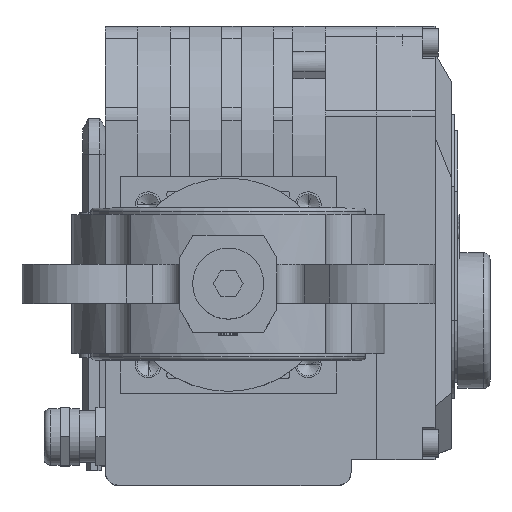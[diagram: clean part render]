
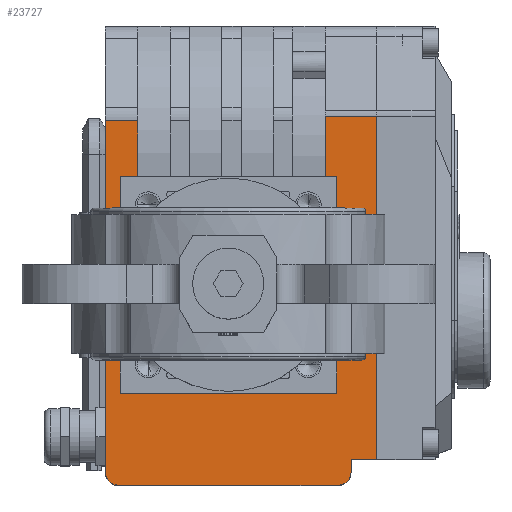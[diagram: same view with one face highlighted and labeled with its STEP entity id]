
A CAD part, top view. The second image highlights one B-rep face of the part: STEP entity #23727.
In plain terms, the highlighted planar face has unit normal (0, 0, 1) as drawn and (0, -1, 0) by its records, which use the part's own axes.
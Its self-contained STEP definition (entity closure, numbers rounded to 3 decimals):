
#18700=DIRECTION('',(1.,0.,0.));
#18701=VECTOR('',#18700,108.749);
#18702=CARTESIAN_POINT('',(-47.,-36.5,0.));
#18703=LINE('',#18702,#18701);
#19127=DIRECTION('',(-1.,0.,0.));
#19128=VECTOR('',#19127,18.604);
#19129=CARTESIAN_POINT('',(63.104,-36.5,-68.));
#19130=LINE('',#19129,#19128);
#19387=DIRECTION('',(0.,0.,1.));
#19388=VECTOR('',#19387,16.);
#19389=CARTESIAN_POINT('',(63.104,-36.5,-84.));
#19390=LINE('',#19389,#19388);
#19391=DIRECTION('',(-1.,0.,0.));
#19392=VECTOR('',#19391,106.104);
#19393=CARTESIAN_POINT('',(63.104,-36.5,-84.));
#19394=LINE('',#19393,#19392);
#19395=CARTESIAN_POINT('',(-47.,-36.5,-72.));
#19396=DIRECTION('',(0.,-1.,0.));
#19397=DIRECTION('',(-1.,0.,0.));
#19398=AXIS2_PLACEMENT_3D('',#19395,#19396,#19397);
#19400=DIRECTION('',(0.,0.,-1.));
#19401=VECTOR('',#19400,68.);
#19402=CARTESIAN_POINT('',(-51.,-36.5,-4.));
#19403=LINE('',#19402,#19401);
#19404=CARTESIAN_POINT('',(-47.,-36.5,-4.));
#19405=DIRECTION('',(0.,-1.,0.));
#19406=DIRECTION('',(0.,0.,1.));
#19407=AXIS2_PLACEMENT_3D('',#19404,#19405,#19406);
#19409=DIRECTION('',(0.,0.,1.));
#19410=VECTOR('',#19409,10.);
#19411=CARTESIAN_POINT('',(61.749,-36.5,-10.));
#19412=LINE('',#19411,#19410);
#19413=DIRECTION('',(-1.,0.,0.));
#19414=VECTOR('',#19413,17.249);
#19415=CARTESIAN_POINT('',(61.749,-36.5,-10.));
#19416=LINE('',#19415,#19414);
#19417=DIRECTION('',(0.,0.,1.));
#19418=VECTOR('',#19417,5.5);
#19419=CARTESIAN_POINT('',(44.5,-36.5,-10.));
#19420=LINE('',#19419,#19418);
#19421=DIRECTION('',(-1.,0.,0.));
#19422=VECTOR('',#19421,67.);
#19423=CARTESIAN_POINT('',(44.5,-36.5,-4.5));
#19424=LINE('',#19423,#19422);
#19425=DIRECTION('',(0.,0.,-1.));
#19426=VECTOR('',#19425,67.);
#19427=CARTESIAN_POINT('',(-22.5,-36.5,-4.5));
#19428=LINE('',#19427,#19426);
#19429=DIRECTION('',(1.,0.,0.));
#19430=VECTOR('',#19429,67.);
#19431=CARTESIAN_POINT('',(-22.5,-36.5,-71.5));
#19432=LINE('',#19431,#19430);
#19433=DIRECTION('',(0.,0.,1.));
#19434=VECTOR('',#19433,3.5);
#19435=CARTESIAN_POINT('',(44.5,-36.5,-71.5));
#19436=LINE('',#19435,#19434);
#19726=DIRECTION('',(1.,0.,0.));
#19727=VECTOR('',#19726,4.);
#19728=CARTESIAN_POINT('',(-47.,-36.5,-76.));
#19729=LINE('',#19728,#19727);
#19762=DIRECTION('',(0.,0.,-1.));
#19763=VECTOR('',#19762,8.);
#19764=CARTESIAN_POINT('',(-43.,-36.5,-76.));
#19765=LINE('',#19764,#19763);
#21934=CARTESIAN_POINT('',(-43.,-36.5,-84.));
#21936=VERTEX_POINT('',#21934);
#21938=CARTESIAN_POINT('',(-43.,-36.5,-76.));
#21940=VERTEX_POINT('',#21938);
#21942=CARTESIAN_POINT('',(-47.,-36.5,0.));
#21943=CARTESIAN_POINT('',(-51.,-36.5,-4.));
#21944=VERTEX_POINT('',#21942);
#21945=VERTEX_POINT('',#21943);
#21954=CARTESIAN_POINT('',(-51.,-36.5,-72.));
#21955=CARTESIAN_POINT('',(-47.,-36.5,-76.));
#21956=VERTEX_POINT('',#21954);
#21957=VERTEX_POINT('',#21955);
#21986=CARTESIAN_POINT('',(61.749,-36.5,0.));
#21988=VERTEX_POINT('',#21986);
#22130=CARTESIAN_POINT('',(61.749,-36.5,-10.));
#22131=VERTEX_POINT('',#22130);
#22226=CARTESIAN_POINT('',(-22.5,-36.5,-4.5));
#22227=CARTESIAN_POINT('',(-22.5,-36.5,-71.5));
#22228=VERTEX_POINT('',#22226);
#22229=VERTEX_POINT('',#22227);
#22230=CARTESIAN_POINT('',(44.5,-36.5,-71.5));
#22231=VERTEX_POINT('',#22230);
#22232=CARTESIAN_POINT('',(44.5,-36.5,-68.));
#22233=VERTEX_POINT('',#22232);
#22246=CARTESIAN_POINT('',(44.5,-36.5,-10.));
#22247=CARTESIAN_POINT('',(44.5,-36.5,-4.5));
#22248=VERTEX_POINT('',#22246);
#22249=VERTEX_POINT('',#22247);
#22922=CARTESIAN_POINT('',(63.104,-36.5,-68.));
#22924=VERTEX_POINT('',#22922);
#22928=CARTESIAN_POINT('',(63.104,-36.5,-84.));
#22929=VERTEX_POINT('',#22928);
#23692=CARTESIAN_POINT('',(-51.,-36.5,0.));
#23693=DIRECTION('',(0.,-1.,0.));
#23694=DIRECTION('',(1.,0.,0.));
#23695=AXIS2_PLACEMENT_3D('',#23692,#23693,#23694);
#23696=PLANE('',#23695);
#23698=ORIENTED_EDGE('',*,*,#23697,.F.);
#23700=ORIENTED_EDGE('',*,*,#23699,.T.);
#23702=ORIENTED_EDGE('',*,*,#23701,.F.);
#23704=ORIENTED_EDGE('',*,*,#23703,.F.);
#23706=ORIENTED_EDGE('',*,*,#23705,.F.);
#23708=ORIENTED_EDGE('',*,*,#23707,.F.);
#23709=ORIENTED_EDGE('',*,*,#23637,.F.);
#23710=ORIENTED_EDGE('',*,*,#22949,.T.);
#23712=ORIENTED_EDGE('',*,*,#23711,.F.);
#23713=ORIENTED_EDGE('',*,*,#23091,.T.);
#23715=ORIENTED_EDGE('',*,*,#23714,.T.);
#23717=ORIENTED_EDGE('',*,*,#23716,.T.);
#23719=ORIENTED_EDGE('',*,*,#23718,.T.);
#23721=ORIENTED_EDGE('',*,*,#23720,.T.);
#23723=ORIENTED_EDGE('',*,*,#23722,.T.);
#23724=ORIENTED_EDGE('',*,*,#23353,.F.);
#23725=EDGE_LOOP('',(#23698,#23700,#23702,#23704,#23706,#23708,#23709,#23710,
#23712,#23713,#23715,#23717,#23719,#23721,#23723,#23724));
#23726=FACE_OUTER_BOUND('',#23725,.F.);
#23727=ADVANCED_FACE('',(#23726),#23696,.T.);
#19399=CIRCLE('',#19398,4.);
#19408=CIRCLE('',#19407,4.);
#22949=EDGE_CURVE('',#21944,#21988,#18703,.T.);
#23091=EDGE_CURVE('',#22131,#22248,#19416,.T.);
#23353=EDGE_CURVE('',#22924,#22233,#19130,.T.);
#23637=EDGE_CURVE('',#21944,#21945,#19408,.T.);
#23697=EDGE_CURVE('',#22929,#22924,#19390,.T.);
#23699=EDGE_CURVE('',#22929,#21936,#19394,.T.);
#23701=EDGE_CURVE('',#21940,#21936,#19765,.T.);
#23703=EDGE_CURVE('',#21957,#21940,#19729,.T.);
#23705=EDGE_CURVE('',#21956,#21957,#19399,.T.);
#23707=EDGE_CURVE('',#21945,#21956,#19403,.T.);
#23711=EDGE_CURVE('',#22131,#21988,#19412,.T.);
#23714=EDGE_CURVE('',#22248,#22249,#19420,.T.);
#23716=EDGE_CURVE('',#22249,#22228,#19424,.T.);
#23718=EDGE_CURVE('',#22228,#22229,#19428,.T.);
#23720=EDGE_CURVE('',#22229,#22231,#19432,.T.);
#23722=EDGE_CURVE('',#22231,#22233,#19436,.T.);
